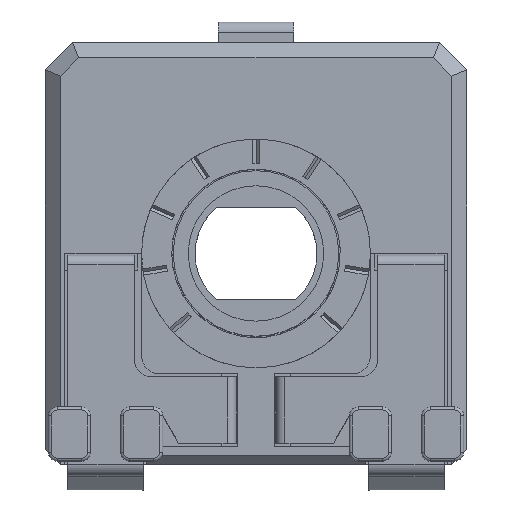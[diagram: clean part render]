
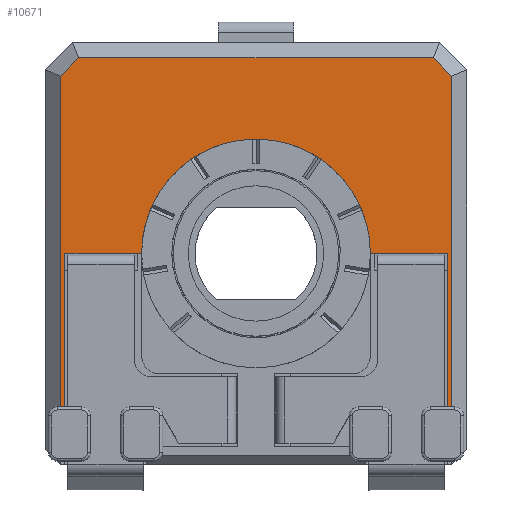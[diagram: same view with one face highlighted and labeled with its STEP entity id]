
A CAD part, top view. The second image highlights one B-rep face of the part: STEP entity #10671.
In plain terms, the highlighted planar face has unit normal (0, 0, 1).
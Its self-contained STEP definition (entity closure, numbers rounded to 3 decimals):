
#347=LINE('',#15127,#1555);
#415=LINE('',#15380,#1623);
#652=LINE('',#16018,#1860);
#655=LINE('',#16023,#1863);
#927=LINE('',#16675,#2135);
#960=LINE('',#16802,#2168);
#1182=LINE('',#17348,#2390);
#1183=LINE('',#17351,#2391);
#1184=LINE('',#17352,#2392);
#1185=LINE('',#17355,#2393);
#1186=LINE('',#17356,#2394);
#1555=VECTOR('',#12169,10.);
#1623=VECTOR('',#12451,10.);
#1860=VECTOR('',#12980,10.);
#1863=VECTOR('',#12985,10.);
#2135=VECTOR('',#13407,10.);
#2168=VECTOR('',#13482,10.);
#2390=VECTOR('',#14004,10.);
#2391=VECTOR('',#14007,10.);
#2392=VECTOR('',#14008,10.);
#2393=VECTOR('',#14011,10.);
#2394=VECTOR('',#14012,10.);
#2863=PLANE('',#11453);
#3401=FACE_OUTER_BOUND('',#3966,.T.);
#3966=EDGE_LOOP('',(#9284,#9285,#9286,#9287,#9288,#9289,#9290,#9291,#9292,
#9293,#9294,#9295));
#4294=CIRCLE('',#11454,3.8);
#4501=VERTEX_POINT('',#14928);
#4560=VERTEX_POINT('',#15126);
#4637=VERTEX_POINT('',#15377);
#4638=VERTEX_POINT('',#15379);
#4685=VERTEX_POINT('',#15533);
#4686=VERTEX_POINT('',#15535);
#4832=VERTEX_POINT('',#16014);
#4833=VERTEX_POINT('',#16016);
#5042=VERTEX_POINT('',#16671);
#5068=VERTEX_POINT('',#16801);
#5199=VERTEX_POINT('',#17350);
#5200=VERTEX_POINT('',#17354);
#5616=EDGE_CURVE('',#4560,#4501,#347,.T.);
#5742=EDGE_CURVE('',#4638,#4637,#415,.T.);
#6033=EDGE_CURVE('',#4833,#4832,#652,.T.);
#6036=EDGE_CURVE('',#4832,#4637,#655,.T.);
#6329=EDGE_CURVE('',#4560,#5042,#927,.T.);
#6374=EDGE_CURVE('',#5042,#5068,#960,.T.);
#6623=EDGE_CURVE('',#5068,#4833,#1182,.T.);
#6624=EDGE_CURVE('',#4501,#5199,#1183,.T.);
#6625=EDGE_CURVE('',#5199,#4686,#1184,.T.);
#6626=EDGE_CURVE('',#4686,#4685,#4294,.T.);
#6627=EDGE_CURVE('',#4685,#5200,#1185,.T.);
#6628=EDGE_CURVE('',#5200,#4638,#1186,.T.);
#9284=ORIENTED_EDGE('',*,*,#5616,.T.);
#9285=ORIENTED_EDGE('',*,*,#6624,.T.);
#9286=ORIENTED_EDGE('',*,*,#6625,.T.);
#9287=ORIENTED_EDGE('',*,*,#6626,.T.);
#9288=ORIENTED_EDGE('',*,*,#6627,.T.);
#9289=ORIENTED_EDGE('',*,*,#6628,.T.);
#9290=ORIENTED_EDGE('',*,*,#5742,.T.);
#9291=ORIENTED_EDGE('',*,*,#6036,.F.);
#9292=ORIENTED_EDGE('',*,*,#6033,.F.);
#9293=ORIENTED_EDGE('',*,*,#6623,.F.);
#9294=ORIENTED_EDGE('',*,*,#6374,.F.);
#9295=ORIENTED_EDGE('',*,*,#6329,.F.);
#10671=ADVANCED_FACE('',(#3401),#2863,.T.);
#11453=AXIS2_PLACEMENT_3D('',#17349,#14005,#14006);
#11454=AXIS2_PLACEMENT_3D('',#17353,#14009,#14010);
#12169=DIRECTION('',(1.,0.,0.));
#12451=DIRECTION('',(1.,0.,0.));
#12980=DIRECTION('',(0.707,-0.707,0.));
#12985=DIRECTION('',(0.,-1.,0.));
#13407=DIRECTION('',(0.,1.,0.));
#13482=DIRECTION('',(0.707,0.707,0.));
#14004=DIRECTION('',(1.,0.,0.));
#14005=DIRECTION('center_axis',(0.,0.,1.));
#14006=DIRECTION('ref_axis',(1.,0.,0.));
#14007=DIRECTION('',(0.,1.,0.));
#14008=DIRECTION('',(1.,0.,0.));
#14009=DIRECTION('center_axis',(0.,0.,-1.));
#14010=DIRECTION('ref_axis',(-1.,0.,0.));
#14011=DIRECTION('',(1.,0.,0.));
#14012=DIRECTION('',(0.,-1.,0.));
#14928=CARTESIAN_POINT('',(-13.817,-7.998,4.4));
#15126=CARTESIAN_POINT('',(-13.967,-7.998,4.4));
#15127=CARTESIAN_POINT('',(-10.217,-7.998,4.4));
#15377=CARTESIAN_POINT('',(-0.967,-7.998,4.4));
#15379=CARTESIAN_POINT('',(-1.117,-7.998,4.4));
#15380=CARTESIAN_POINT('',(-4.017,-7.998,4.4));
#15533=CARTESIAN_POINT('',(-3.667,-2.898,4.4));
#15535=CARTESIAN_POINT('',(-11.267,-2.898,4.4));
#16014=CARTESIAN_POINT('',(-0.967,2.994,4.4));
#16016=CARTESIAN_POINT('',(-1.574,3.602,4.4));
#16018=CARTESIAN_POINT('',(-1.271,3.298,4.4));
#16023=CARTESIAN_POINT('',(-0.967,0.602,4.4));
#16671=CARTESIAN_POINT('',(-13.967,2.994,4.4));
#16675=CARTESIAN_POINT('',(-13.967,-6.398,4.4));
#16801=CARTESIAN_POINT('',(-13.36,3.602,4.4));
#16802=CARTESIAN_POINT('',(-13.663,3.298,4.4));
#17348=CARTESIAN_POINT('',(-10.967,3.602,4.4));
#17349=CARTESIAN_POINT('Origin',(-7.467,-2.898,4.4));
#17350=CARTESIAN_POINT('',(-13.817,-2.898,4.4));
#17351=CARTESIAN_POINT('',(-13.817,-3.173,4.4));
#17352=CARTESIAN_POINT('',(-9.442,-2.898,4.4));
#17353=CARTESIAN_POINT('Origin',(-7.467,-2.898,4.4));
#17354=CARTESIAN_POINT('',(-1.117,-2.898,4.4));
#17355=CARTESIAN_POINT('',(-5.492,-2.898,4.4));
#17356=CARTESIAN_POINT('',(-1.117,-2.898,4.4));
